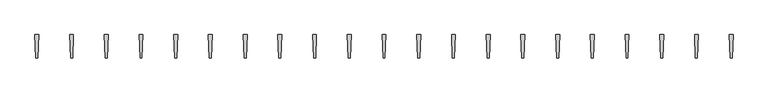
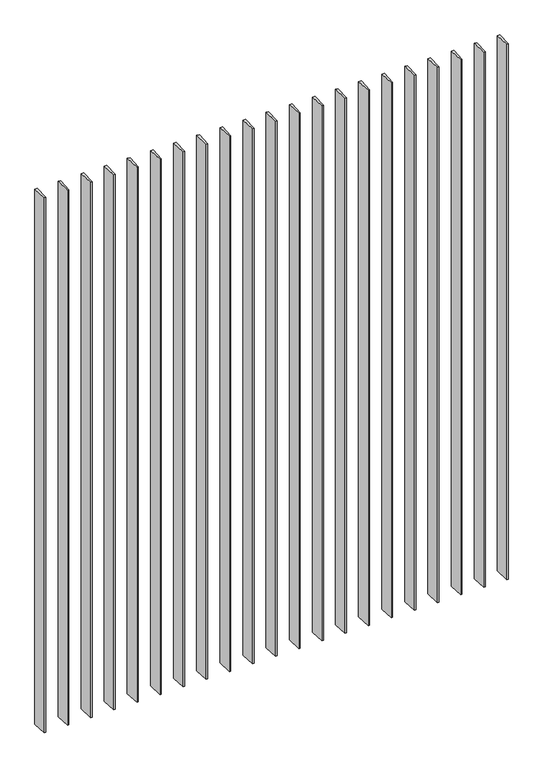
"""IFC4 building model written with IfcOpenShell, lengths in millimetres: proxy geometry, 垂直ルーバー : 垂直ルーバー."""

from ifc_helpers import new_model, si_unit, origin, origin_with_axes, place, context, project, spatial, polyline, outline, extrude, source, transform, mapped, element, save


def generic_models_c0385aa1(model_context):
    return source(origin(), model_context, "Body", "SweptSolid", [
        extrude(outline(polyline([(17975.0, -600.0), (17950.0, 0.0), (18050.0, 0.0), (18025.0, -600.0), (17975.0, -600.0)])), origin_with_axes(), (0.0, 0.0, 1.0), 22000.0),
        extrude(outline(polyline([(17075.0, -600.0), (17050.0, 0.0), (17150.0, 0.0), (17125.0, -600.0), (17075.0, -600.0)])), origin_with_axes(), (0.0, 0.0, 1.0), 22000.0),
        extrude(outline(polyline([(16175.0, -600.0), (16150.0, 0.0), (16250.0, 0.0), (16225.0, -600.0), (16175.0, -600.0)])), origin_with_axes(), (0.0, 0.0, 1.0), 22000.0),
        extrude(outline(polyline([(15275.0, -600.0), (15250.0, 0.0), (15350.0, 0.0), (15325.0, -600.0), (15275.0, -600.0)])), origin_with_axes(), (0.0, 0.0, 1.0), 22000.0),
        extrude(outline(polyline([(14375.0, -600.0), (14350.0, 0.0), (14450.0, 0.0), (14425.0, -600.0), (14375.0, -600.0)])), origin_with_axes(), (0.0, 0.0, 1.0), 22000.0),
        extrude(outline(polyline([(13475.0, -600.0), (13450.0, 0.0), (13550.0, 0.0), (13525.0, -600.0), (13475.0, -600.0)])), origin_with_axes(), (0.0, 0.0, 1.0), 22000.0),
        extrude(outline(polyline([(12575.0, -600.0), (12550.0, 0.0), (12650.0, 0.0), (12625.0, -600.0), (12575.0, -600.0)])), origin_with_axes(), (0.0, 0.0, 1.0), 22000.0),
        extrude(outline(polyline([(11675.0, -600.0), (11650.0, 0.0), (11750.0, 0.0), (11725.0, -600.0), (11675.0, -600.0)])), origin_with_axes(), (0.0, 0.0, 1.0), 22000.0),
        extrude(outline(polyline([(10775.0, -600.0), (10750.0, 0.0), (10850.0, 0.0), (10825.0, -600.0), (10775.0, -600.0)])), origin_with_axes(), (0.0, 0.0, 1.0), 22000.0),
        extrude(outline(polyline([(9875.0, -600.0), (9850.0, 0.0), (9950.0, 0.0), (9925.0, -600.0), (9875.0, -600.0)])), origin_with_axes(), (0.0, 0.0, 1.0), 22000.0),
        extrude(outline(polyline([(8975.0, -600.0), (8950.0, 0.0), (9050.0, 0.0), (9025.0, -600.0), (8975.0, -600.0)])), origin_with_axes(), (0.0, 0.0, 1.0), 22000.0),
        extrude(outline(polyline([(8075.0, -600.0), (8050.0, 0.0), (8150.0, 0.0), (8125.0, -600.0), (8075.0, -600.0)])), origin_with_axes(), (0.0, 0.0, 1.0), 22000.0),
        extrude(outline(polyline([(7175.0, -600.0), (7150.0, 0.0), (7250.0, 0.0), (7225.0, -600.0), (7175.0, -600.0)])), origin_with_axes(), (0.0, 0.0, 1.0), 22000.0),
        extrude(outline(polyline([(6275.0, -600.0), (6250.0, 0.0), (6350.0, 0.0), (6325.0, -600.0), (6275.0, -600.0)])), origin_with_axes(), (0.0, 0.0, 1.0), 22000.0),
        extrude(outline(polyline([(5375.0, -600.0), (5350.0, 0.0), (5450.0, 0.0), (5425.0, -600.0), (5375.0, -600.0)])), origin_with_axes(), (0.0, 0.0, 1.0), 22000.0),
        extrude(outline(polyline([(4475.0, -600.0), (4450.0, 0.0), (4550.0, 0.0), (4525.0, -600.0), (4475.0, -600.0)])), origin_with_axes(), (0.0, 0.0, 1.0), 22000.0),
        extrude(outline(polyline([(3575.0, -600.0), (3550.0, 0.0), (3650.0, 0.0), (3625.0, -600.0), (3575.0, -600.0)])), origin_with_axes(), (0.0, 0.0, 1.0), 22000.0),
        extrude(outline(polyline([(2675.0, -600.0), (2650.0, 0.0), (2750.0, 0.0), (2725.0, -600.0), (2675.0, -600.0)])), origin_with_axes(), (0.0, 0.0, 1.0), 22000.0),
        extrude(outline(polyline([(1775.0, -600.0), (1750.0, 0.0), (1850.0, 0.0), (1825.0, -600.0), (1775.0, -600.0)])), origin_with_axes(), (0.0, 0.0, 1.0), 22000.0),
        extrude(outline(polyline([(875.0, -600.0), (850.0, 0.0), (950.0, 0.0), (925.0, -600.0), (875.0, -600.0)])), origin_with_axes(), (0.0, 0.0, 1.0), 22000.0),
        extrude(outline(polyline([(-25.0, -600.0), (-50.0, 0.0), (50.0, 0.0), (25.0, -600.0), (-25.0, -600.0)])), origin_with_axes(), (0.0, 0.0, 1.0), 22000.0),
    ])


if __name__ == "__main__":
    model = new_model("IFC4")
    model_context = context("Model", 3, world=origin())
    ifc_project = project(units=[si_unit("LENGTHUNIT", "METRE", prefix="MILLI")], contexts=[model_context])
    site = spatial("IfcSite", under=ifc_project)
    building = spatial("IfcBuilding", under=site)
    placement = place(None, origin())
    generic_models_shape = generic_models_c0385aa1(model_context)
    element("IfcBuildingElementProxy", 1, Name="垂直ルーバー : 垂直ルーバー", ObjectType="垂直ルーバー : 垂直ルーバー", at=placement, inside=building, context=model_context, shape_type="MappedRepresentation", body=[
        mapped(generic_models_shape, transform((0.0, 0.0, 0.0), x_axis=(1.0, 0.0, 0.0), y_axis=(0.0, 1.0, 0.0), z_axis=(0.0, 0.0, 1.0))),
    ])
    save(model, "model.ifc")
